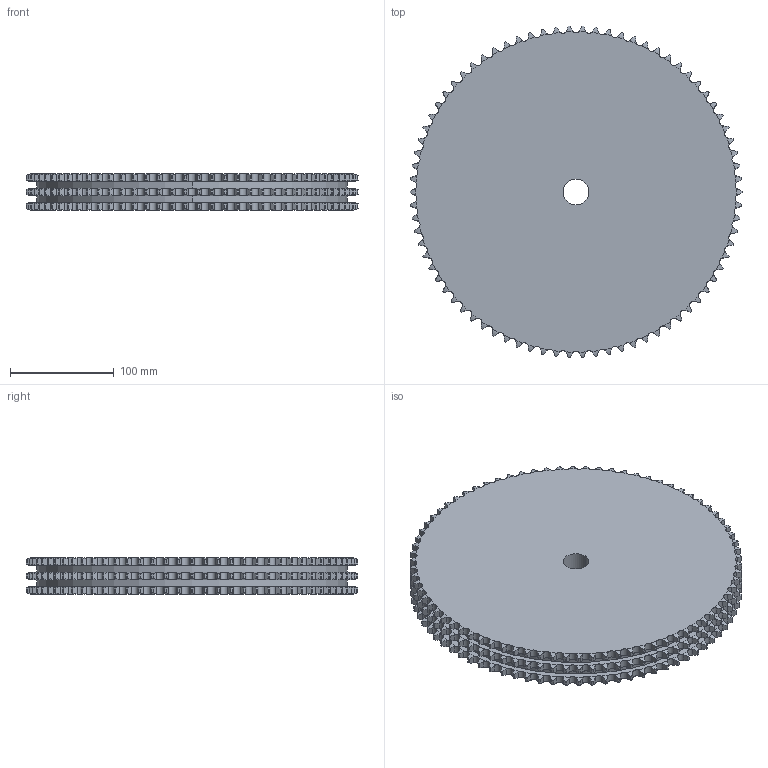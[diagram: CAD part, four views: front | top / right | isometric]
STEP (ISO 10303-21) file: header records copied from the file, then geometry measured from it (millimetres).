
FILE_DESCRIPTION((''),'2;1');
FILE_NAME('500-203-0078_PRT','2021-02-12T',('Brieden'),('Brieden'),'PRO/ENGINEER BY PARAMETRIC TECHNOLOGY CORPORATION, 2010160','PRO/ENGINEER BY PARAMETRIC TECHNOLOGY CORPORATION, 2010160','');
FILE_SCHEMA(('AUTOMOTIVE_DESIGN { 1 0 10303 214 1 1 1 1 }'));
Length unit declared in the file: millimetre
Products named in the file (1): 500-203-0078_PRT
Bounding box: 320.61 x 320.41 x 34.9 mm (x, y, z)
Volume: 2575247.1 mm3; surface area: 223823 mm2
Topology: 1 solids, 1 shells, 1416 faces, 4230 edges, 2820 vertices
Faces by surface type: cylinder 942, torus 468, plane 6
Entity records: 70006 total; most frequent: CARTESIAN_POINT 21445, ORIENTED_EDGE 8460, DIRECTION 6606, PRESENTATION_STYLE_ASSIGNMENT 4231, STYLED_ITEM 4231, CURVE_STYLE 4230, EDGE_CURVE 4230, AXIS2_PLACEMENT_3D 2832
